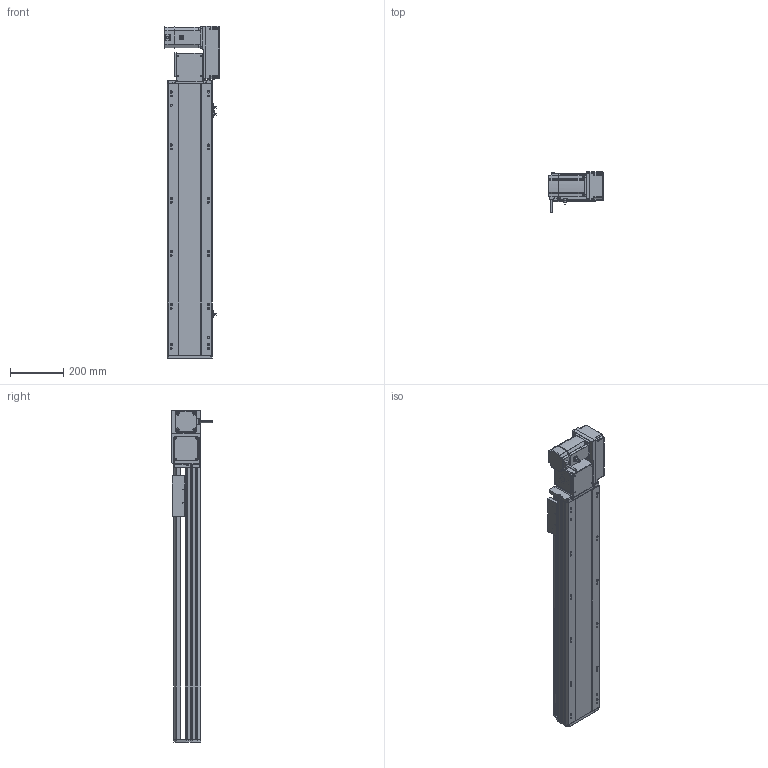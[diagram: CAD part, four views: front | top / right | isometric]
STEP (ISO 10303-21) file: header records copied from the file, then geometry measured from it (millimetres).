
FILE_DESCRIPTION (( 'STEP AP214' ), '1' );
FILE_NAME ('RTB17S-XX-750-R-M75-C4.STEP', '2025-12-12T01:33:29', ( '' ), ( '' ), 'SwSTEP 2.0', 'SolidWorks 2018', '' );
FILE_SCHEMA (( 'AUTOMOTIVE_DESIGN' ));
Length unit declared in the file: millimetre
Products named in the file (15): RTB17S-L-004-賑釱^RTB17S-賑釱_RTB17S-XX-XX-R-M75-C4; RTB17S-L-014-T20-P75--々湍釱^RTB17S-R-々湍釱蚾饜-750W_RTB17S-XX-XX-R-M75-C4; RTB17S-L-001-耜醱啣^RTB17S-XX-XX-R-M75-C4; RTB22S-GY-017P^RTB17S-R-々湍釱蚾饜-750W_RTB17S-XX-XX-R-M75-C4; RTB17S-賑釱^RTB17S-XX-XX-R-M75-C4; RTB22S-GY-008-M75--萇儂啣^RTB17S-R-々湍釱蚾饜-750W_RTB17S-XX-XX-R-M75-C4; EE672^RTB17S-XX-XX-R-M75-C4; RTB22S-GY-005P^RTB17S-R-々湍釱蚾饜-750W_RTB17S-XX-XX-R-M75-C4; RTB17S-XX-750-R-M75-C4; RTB22S-GY-018P^RTB17S-R-々湍釱蚾饜-750W_RTB17S-XX-XX-R-M75-C4; RTB17S-R-々湍釱蚾饜-750W^RTB17S-XX-XX-R-M75-C4; 750W萇儂^RTB17S-XX-XX-R-M75-C4; RTB17-R-011菁釱^RTB17S-XX-XX-R-M75-C4; RTH13-BL-012覜茼え俋离^RTB17S-賑釱_RTB17S-XX-XX-R-M75-C4; RTB17S-L-007奻裔^RTB17S-XX-XX-R-M75-C4
Assembly tree (17 placements, depth 3):
  RTB17S-XX-750-R-M75-C4
    RTB17-R-011菁釱^RTB17S-XX-XX-R-M75-C4
    EE672^RTB17S-XX-XX-R-M75-C4  x3
    RTB17S-L-001-耜醱啣^RTB17S-XX-XX-R-M75-C4
    RTB17S-賑釱^RTB17S-XX-XX-R-M75-C4
      RTB17S-L-004-賑釱^RTB17S-賑釱_RTB17S-XX-XX-R-M75-C4
      RTH13-BL-012覜茼え俋离^RTB17S-賑釱_RTB17S-XX-XX-R-M75-C4
    RTB17S-L-007奻裔^RTB17S-XX-XX-R-M75-C4
    750W萇儂^RTB17S-XX-XX-R-M75-C4
    RTB17S-R-々湍釱蚾饜-750W^RTB17S-XX-XX-R-M75-C4
      RTB17S-L-014-T20-P75--々湍釱^RTB17S-R-々湍釱蚾饜-750W_RTB17S-XX-XX-R-M75-C4
      RTB22S-GY-005P^RTB17S-R-々湍釱蚾饜-750W_RTB17S-XX-XX-R-M75-C4
      RTB22S-GY-017P^RTB17S-R-々湍釱蚾饜-750W_RTB17S-XX-XX-R-M75-C4  x2
      RTB22S-GY-008-M75--萇儂啣^RTB17S-R-々湍釱蚾饜-750W_RTB17S-XX-XX-R-M75-C4
      RTB22S-GY-018P^RTB17S-R-々湍釱蚾饜-750W_RTB17S-XX-XX-R-M75-C4
Bounding box: 207.4 x 152.7 x 1249 mm (x, y, z)
Volume: 10638349.4 mm3; surface area: 1763836.8 mm2
Topology: 17 solids, 17 shells, 2073 faces, 5728 edges, 3698 vertices
Faces by surface type: plane 968, cylinder 689, bspline 294, cone 110, sphere 8, torus 4
Entity records: 57334 total; most frequent: CARTESIAN_POINT 16792, ORIENTED_EDGE 8300, DIRECTION 7772, EDGE_CURVE 4150, AXIS2_PLACEMENT_3D 2718, VERTEX_POINT 2702, LINE 2336, VECTOR 2336
